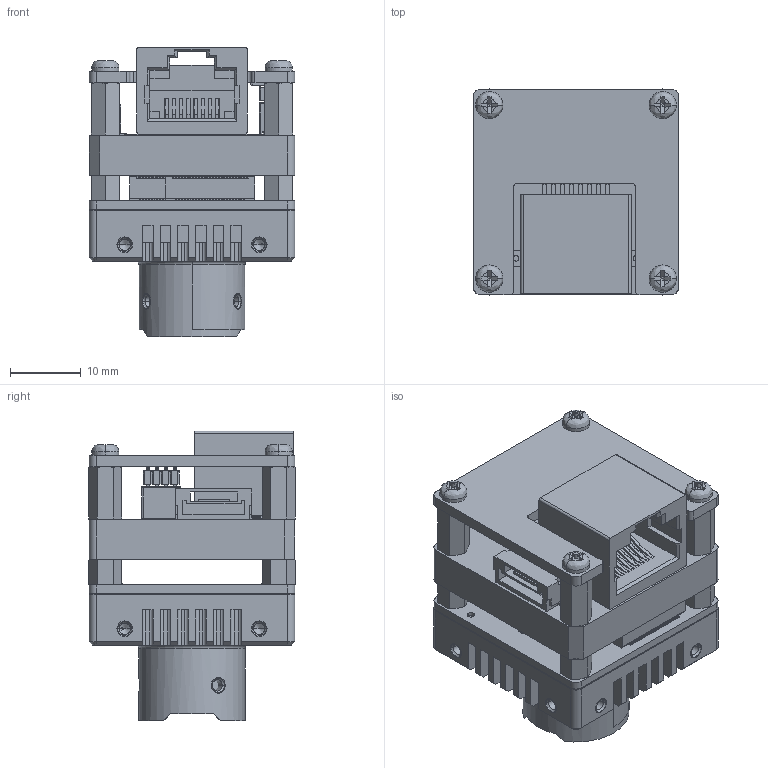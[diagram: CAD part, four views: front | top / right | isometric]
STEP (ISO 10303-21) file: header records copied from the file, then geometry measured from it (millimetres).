
FILE_DESCRIPTION((''),'2;1');
FILE_NAME('MV-CB0603D-S000_ASM','2021-01-26T14:21:08',('fangguihua'),(''),'CREO PARAMETRIC BY PTC INC, 2017260','CREO PARAMETRIC BY PTC INC, 2017260','');
FILE_SCHEMA(('CONFIG_CONTROL_DESIGN'));
Products named in the file (1): MV-CB0603D-S000_ASM
Bounding box: 29 x 29.12 x 40.9 mm (x, y, z)
Volume: 12999.6 mm3; surface area: 16134.7 mm2
Topology: 1 solids, 82 shells, 5856 faces, 17183 edges, 11303 vertices
Faces by surface type: plane 3857, cylinder 1677, cone 156, bspline 128, torus 34, sphere 4
Entity records: 201855 total; most frequent: CARTESIAN_POINT 43594, ORIENTED_EDGE 34008, DIRECTION 31427, EDGE_CURVE 17131, VECTOR 12981, LINE 12981, VERTEX_POINT 11303, AXIS2_PLACEMENT_3D 9223
